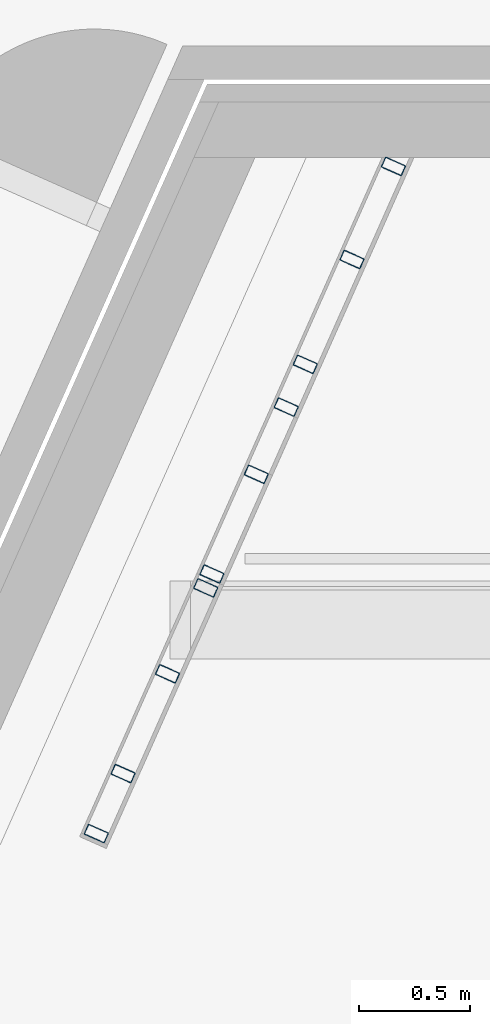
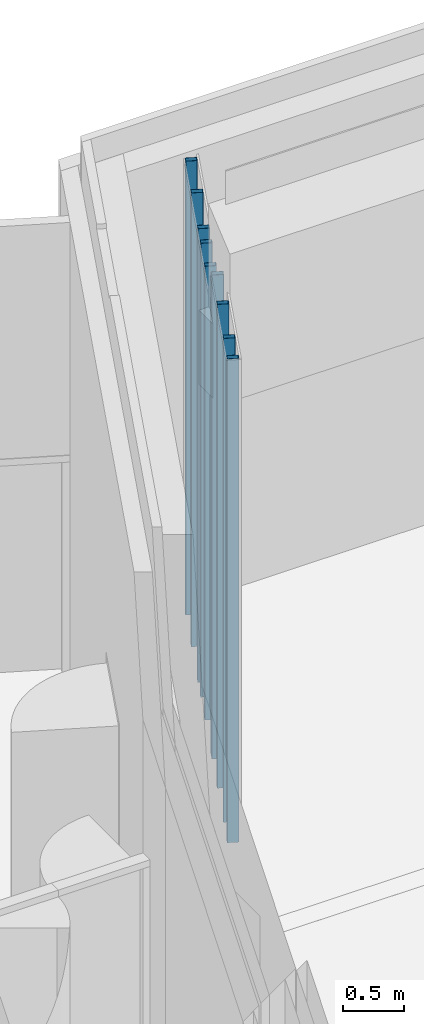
# One storey, part 2 of 19: 10 columns.
"""IFC2X3 building model written with IfcOpenShell, lengths in millimetres."""

from ifc_helpers import new_model, entity, si_unit, converted_unit, derived_unit, direction, frame, frame_2d, origin, place, context, subcontext, project, spatial, polyline, circle_curve, parameter, trimmed, segment, composite_curve, outline, extrude, source, transform, mapped, material, type_object, type_shapes, element, save


model = new_model("IFC2X3")

# Units and contexts
model_context = context("Model", 3, precision=0.01, world=origin(), true_north=direction((6.123031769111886e-17, 1.0)))
body_context = subcontext(model_context, "Body", "Model", "MODEL_VIEW")
ifc_project = project(units=[si_unit("LENGTHUNIT", "METRE", prefix="MILLI"), si_unit("AREAUNIT", "SQUARE_METRE"), si_unit("VOLUMEUNIT", "CUBIC_METRE"), converted_unit("PLANEANGLEUNIT", "DEGREE", entity("IfcRatioMeasure", 0.017453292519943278), si_unit("PLANEANGLEUNIT", "RADIAN"), dimensions=[0, 0, 0, 0, 0, 0, 0]), si_unit("MASSUNIT", "GRAM", prefix="KILO"), derived_unit("MASSDENSITYUNIT", [(si_unit("MASSUNIT", "GRAM", prefix="KILO"), 1), (si_unit("LENGTHUNIT", "METRE"), -3)]), derived_unit("MOMENTOFINERTIAUNIT", [(si_unit("LENGTHUNIT", "METRE"), 4)]), si_unit("TIMEUNIT", "SECOND"), si_unit("FREQUENCYUNIT", "HERTZ"), si_unit("THERMODYNAMICTEMPERATUREUNIT", "DEGREE_CELSIUS"), derived_unit("THERMALTRANSMITTANCEUNIT", [(si_unit("MASSUNIT", "GRAM", prefix="KILO"), 1), (si_unit("THERMODYNAMICTEMPERATUREUNIT", "KELVIN"), -1), (si_unit("TIMEUNIT", "SECOND"), -3)]), derived_unit("VOLUMETRICFLOWRATEUNIT", [(si_unit("LENGTHUNIT", "METRE"), 3), (si_unit("TIMEUNIT", "SECOND"), -1)]), derived_unit("MASSFLOWRATEUNIT", [(si_unit("MASSUNIT", "GRAM", prefix="KILO"), 1), (si_unit("TIMEUNIT", "SECOND"), -1)]), derived_unit("ROTATIONALFREQUENCYUNIT", [(si_unit("TIMEUNIT", "SECOND"), -1)]), si_unit("ELECTRICCURRENTUNIT", "AMPERE"), si_unit("ELECTRICVOLTAGEUNIT", "VOLT"), si_unit("POWERUNIT", "WATT"), si_unit("FORCEUNIT", "NEWTON", prefix="KILO"), si_unit("ILLUMINANCEUNIT", "LUX"), si_unit("LUMINOUSFLUXUNIT", "LUMEN"), si_unit("LUMINOUSINTENSITYUNIT", "CANDELA"), derived_unit("USERDEFINED", [(si_unit("MASSUNIT", "GRAM", prefix="KILO"), -1), (si_unit("LENGTHUNIT", "METRE"), -2), (si_unit("TIMEUNIT", "SECOND"), 3), (si_unit("LUMINOUSFLUXUNIT", "LUMEN"), 1)]), derived_unit("SOUNDPOWERUNIT", [(si_unit("MASSUNIT", "GRAM", prefix="KILO"), 1), (si_unit("LENGTHUNIT", "METRE"), 2), (si_unit("TIMEUNIT", "SECOND"), -3)]), derived_unit("SOUNDPRESSUREUNIT", [(si_unit("MASSUNIT", "GRAM", prefix="KILO"), 1), (si_unit("LENGTHUNIT", "METRE"), -1), (si_unit("TIMEUNIT", "SECOND"), -2)]), derived_unit("LINEARVELOCITYUNIT", [(si_unit("LENGTHUNIT", "METRE"), 1), (si_unit("TIMEUNIT", "SECOND"), -1)]), si_unit("PRESSUREUNIT", "PASCAL"), derived_unit("USERDEFINED", [(si_unit("LENGTHUNIT", "METRE"), -2), (si_unit("MASSUNIT", "GRAM", prefix="KILO"), 1), (si_unit("TIMEUNIT", "SECOND"), -2)]), derived_unit("LINEARFORCEUNIT", [(si_unit("MASSUNIT", "GRAM", prefix="KILO"), 1), (si_unit("LENGTHUNIT", "METRE"), 1), (si_unit("TIMEUNIT", "SECOND"), -2), (si_unit("LENGTHUNIT", "METRE"), -1)]), derived_unit("PLANARFORCEUNIT", [(si_unit("MASSUNIT", "GRAM", prefix="KILO"), 1), (si_unit("LENGTHUNIT", "METRE"), 1), (si_unit("TIMEUNIT", "SECOND"), -2), (si_unit("LENGTHUNIT", "METRE"), -2)])], contexts=[model_context])

# Site, building, storey
site_placement = place(None, frame((-10000.0, -10000.0, 0.0)))
site = spatial("IfcSite", under=ifc_project, at=site_placement, Name="Default", CompositionType="ELEMENT")
building_placement = place(site_placement, origin())
building = spatial("IfcBuilding", under=site, at=building_placement, CompositionType="ELEMENT")
storey_placement = place(building_placement, frame((0.0, 0.0, 4200.0)))
storey = spatial("IfcBuildingStorey", under=building, at=storey_placement, Name="01 1e verdieping", CompositionType="ELEMENT", Elevation=4200.000000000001)

# Columns
ifc_material = material(Name="Metal - Steel - 345 MPa")
column_type_1 = type_object("IfcColumnType", Name="Kokerprofielen_ITX(c):K100/50/2.5", PredefinedType="COLUMN", material=ifc_material)
shared_shape_1 = source(origin(), body_context, "Body", "SweptSolid", [
    extrude(outline(composite_curve([segment(polyline([(-20.0, -50.0), (20.0, -50.0)]), True, "CONTINUOUS"), segment(trimmed(circle_curve(frame_2d((20.0, -45.0), x_axis=(-1.0, 0.0)), 4.99999999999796), [parameter(90.00000000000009)], [parameter(180.00000000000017)], True, "PARAMETER"), True, "CONTINUOUS"), segment(polyline([(25.0, -45.0), (25.0, 45.0)]), True, "CONTINUOUS"), segment(trimmed(circle_curve(frame_2d((20.0, 45.0), x_axis=(-1.0, 0.0)), 4.999999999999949), [parameter(180.00000000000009)], [parameter(269.99999999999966)], True, "PARAMETER"), True, "CONTINUOUS"), segment(polyline([(20.0, 50.0), (-20.0, 50.0)]), True, "CONTINUOUS"), segment(trimmed(circle_curve(frame_2d((-20.0, 45.0), x_axis=(-1.0, 0.0)), 5.000000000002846), [parameter(269.99999999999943)], [parameter(359.9999999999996)], True, "PARAMETER"), True, "CONTINUOUS"), segment(polyline([(-25.0, 45.0), (-25.0, -45.0)]), True, "CONTINUOUS"), segment(trimmed(circle_curve(frame_2d((-20.0, -45.0), x_axis=(-1.0, 0.0)), 4.999999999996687), [parameter(359.9999999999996)], [parameter(89.99999999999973)], True, "PARAMETER"), True, "CONTINUOUS")], self_intersect=False), holes=[composite_curve([segment(trimmed(circle_curve(frame_2d((-20.0, -45.0), x_axis=(-1.0, 0.0)), 2.49999999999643), [parameter(0.0)], [parameter(89.99999999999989)], True, "PARAMETER"), False, "CONTINUOUS"), segment(polyline([(-22.499999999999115, -45.0), (-22.499999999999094, 45.0)]), True, "CONTINUOUS"), segment(trimmed(circle_curve(frame_2d((-20.0, 45.0), x_axis=(-1.0, 0.0)), 2.4999999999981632), [parameter(269.9999999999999)], [parameter(0.0)], True, "PARAMETER"), False, "CONTINUOUS"), segment(polyline([(-20.0, 47.500000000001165), (20.0, 47.500000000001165)]), True, "CONTINUOUS"), segment(trimmed(circle_curve(frame_2d((20.0, 45.0), x_axis=(-1.0, 0.0)), 2.5000000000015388), [parameter(180.0000000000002)], [parameter(270.0)], True, "PARAMETER"), False, "CONTINUOUS"), segment(polyline([(22.500000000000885, 45.0), (22.500000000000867, -45.0)]), True, "CONTINUOUS"), segment(trimmed(circle_curve(frame_2d((20.0, -45.0), x_axis=(-1.0, 0.0)), 2.500000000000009), [parameter(90.0000000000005)], [parameter(179.99999999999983)], True, "PARAMETER"), False, "CONTINUOUS"), segment(polyline([(20.0, -47.499999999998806), (-20.0, -47.49999999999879)]), True, "CONTINUOUS")], self_intersect=False)]), frame((0.0, 0.0, 4150.0), z_axis=(0.0, 0.0, 1.0), x_axis=(-1.0, 0.0, 0.0)), (0.0, 0.0, 1.0), 4549.999999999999),
])
type_shapes(column_type_1, [shared_shape_1])
for number, where, z_axis, x_axis in (
    (1, (28523.670080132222, 48224.522803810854, -4200.0), (0.0, 0.0, 1.0), (0.4067926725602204, 0.9135205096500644, 0.0)),
    (2, (28438.24361889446, 48032.68349678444, -4200.0), (0.0, 0.0, 1.0), (0.4067926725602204, 0.9135205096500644, 0.0)),
    (3, (28733.168306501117, 48694.985866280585, -4200.0), (0.0, 0.0, 1.0), (0.4067926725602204, 0.9135205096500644, 0.0)),
    (4, (28919.10999593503, 49112.5488126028, -4200.0), (0.0, 0.0, 1.0), (0.4067926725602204, 0.9135205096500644, 0.0)),
    (5, (28304.01679907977, 47731.21515499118, -4200.0), (0.0, 0.0, 1.0), (0.4067926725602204, 0.9135205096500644, 0.0)),
    (6, (28104.688389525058, 47283.59010526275, -4200.0), (0.0, 0.0, 1.0), (0.4067926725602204, 0.9135205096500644, 0.0)),
):
    element("IfcColumn", number, at=place(storey_placement, frame(where, z_axis=z_axis, x_axis=x_axis)), inside=storey, type_object=column_type_1, material=ifc_material, Name="Kokerprofielen_ITX(c):K100/50/2.5", ObjectType="Kokerprofielen_ITX(c):K100/50/2.5", context=body_context, shape_type="MappedRepresentation", body=[
        mapped(shared_shape_1, transform((0.0, 0.0, 0.0), scale=1.0)),
    ])
column_type_2 = type_object("IfcColumnType", Name="Kokerprofielen_ITX(c):K100/50/2.5", PredefinedType="COLUMN", material=ifc_material)
shared_shape_2 = source(origin(), body_context, "Body", "SweptSolid", [
    extrude(outline(composite_curve([segment(polyline([(-20.0, -50.0), (20.0, -50.0)]), True, "CONTINUOUS"), segment(trimmed(circle_curve(frame_2d((20.0, -45.0), x_axis=(-1.0, 0.0)), 4.99999999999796), [parameter(90.00000000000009)], [parameter(180.00000000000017)], True, "PARAMETER"), True, "CONTINUOUS"), segment(polyline([(25.0, -45.0), (25.0, 45.0)]), True, "CONTINUOUS"), segment(trimmed(circle_curve(frame_2d((20.0, 45.0), x_axis=(-1.0, 0.0)), 4.999999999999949), [parameter(180.00000000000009)], [parameter(269.99999999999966)], True, "PARAMETER"), True, "CONTINUOUS"), segment(polyline([(20.0, 50.0), (-20.0, 50.0)]), True, "CONTINUOUS"), segment(trimmed(circle_curve(frame_2d((-20.0, 45.0), x_axis=(-1.0, 0.0)), 5.000000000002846), [parameter(269.99999999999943)], [parameter(359.9999999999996)], True, "PARAMETER"), True, "CONTINUOUS"), segment(polyline([(-25.0, 45.0), (-25.0, -45.0)]), True, "CONTINUOUS"), segment(trimmed(circle_curve(frame_2d((-20.0, -45.0), x_axis=(-1.0, 0.0)), 4.999999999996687), [parameter(359.9999999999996)], [parameter(89.99999999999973)], True, "PARAMETER"), True, "CONTINUOUS")], self_intersect=False), holes=[composite_curve([segment(trimmed(circle_curve(frame_2d((-20.0, -45.0), x_axis=(-1.0, 0.0)), 2.49999999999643), [parameter(0.0)], [parameter(89.99999999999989)], True, "PARAMETER"), False, "CONTINUOUS"), segment(polyline([(-22.499999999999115, -45.0), (-22.499999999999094, 45.0)]), True, "CONTINUOUS"), segment(trimmed(circle_curve(frame_2d((-20.0, 45.0), x_axis=(-1.0, 0.0)), 2.4999999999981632), [parameter(269.9999999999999)], [parameter(0.0)], True, "PARAMETER"), False, "CONTINUOUS"), segment(polyline([(-20.0, 47.500000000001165), (20.0, 47.500000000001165)]), True, "CONTINUOUS"), segment(trimmed(circle_curve(frame_2d((20.0, 45.0), x_axis=(-1.0, 0.0)), 2.5000000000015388), [parameter(180.0000000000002)], [parameter(270.0)], True, "PARAMETER"), False, "CONTINUOUS"), segment(polyline([(22.500000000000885, 45.0), (22.500000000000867, -45.0)]), True, "CONTINUOUS"), segment(trimmed(circle_curve(frame_2d((20.0, -45.0), x_axis=(-1.0, 0.0)), 2.500000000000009), [parameter(90.0000000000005)], [parameter(179.99999999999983)], True, "PARAMETER"), False, "CONTINUOUS"), segment(polyline([(20.0, -47.499999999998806), (-20.0, -47.49999999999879)]), True, "CONTINUOUS")], self_intersect=False)]), frame((0.0, 0.0, 4150.0), z_axis=(0.0, 0.0, 1.0), x_axis=(-1.0, 0.0, 0.0)), (0.0, 0.0, 1.0), 4850.0),
])
type_shapes(column_type_2, [shared_shape_2])
column_1_placement = place(storey_placement, frame((27905.359979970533, 46835.965055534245, -4200.0), z_axis=(0.0, 0.0, 1.0), x_axis=(0.4067926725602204, 0.9135205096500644, 0.0)))
element("IfcColumn", 7, at=column_1_placement, inside=storey, type_object=column_type_2, material=ifc_material, Name="Kokerprofielen_ITX(c):K100/50/2.5", ObjectType="Kokerprofielen_ITX(c):K100/50/2.5", context=body_context, shape_type="MappedRepresentation", body=[
    mapped(shared_shape_2, transform((0.0, 0.0, 0.0), scale=1.0)),
])
column_type_3 = type_object("IfcColumnType", Name="Kokerprofielen_ITX(c):K100/50/2.5", PredefinedType="COLUMN", material=ifc_material)
shared_shape_3 = source(origin(), body_context, "Body", "SweptSolid", [
    extrude(outline(composite_curve([segment(polyline([(-20.0, -50.0), (20.0, -50.0)]), True, "CONTINUOUS"), segment(trimmed(circle_curve(frame_2d((20.0, -45.0), x_axis=(-1.0, 0.0)), 4.99999999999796), [parameter(90.00000000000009)], [parameter(180.00000000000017)], True, "PARAMETER"), True, "CONTINUOUS"), segment(polyline([(25.0, -45.0), (25.0, 45.0)]), True, "CONTINUOUS"), segment(trimmed(circle_curve(frame_2d((20.0, 45.0), x_axis=(-1.0, 0.0)), 4.999999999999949), [parameter(180.00000000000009)], [parameter(269.99999999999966)], True, "PARAMETER"), True, "CONTINUOUS"), segment(polyline([(20.0, 50.0), (-20.0, 50.0)]), True, "CONTINUOUS"), segment(trimmed(circle_curve(frame_2d((-20.0, 45.0), x_axis=(-1.0, 0.0)), 5.000000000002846), [parameter(269.99999999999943)], [parameter(359.9999999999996)], True, "PARAMETER"), True, "CONTINUOUS"), segment(polyline([(-25.0, 45.0), (-25.0, -45.0)]), True, "CONTINUOUS"), segment(trimmed(circle_curve(frame_2d((-20.0, -45.0), x_axis=(-1.0, 0.0)), 4.999999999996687), [parameter(359.9999999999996)], [parameter(89.99999999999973)], True, "PARAMETER"), True, "CONTINUOUS")], self_intersect=False), holes=[composite_curve([segment(trimmed(circle_curve(frame_2d((-20.0, -45.0), x_axis=(-1.0, 0.0)), 2.49999999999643), [parameter(0.0)], [parameter(89.99999999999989)], True, "PARAMETER"), False, "CONTINUOUS"), segment(polyline([(-22.499999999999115, -45.0), (-22.499999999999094, 45.0)]), True, "CONTINUOUS"), segment(trimmed(circle_curve(frame_2d((-20.0, 45.0), x_axis=(-1.0, 0.0)), 2.4999999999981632), [parameter(269.9999999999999)], [parameter(0.0)], True, "PARAMETER"), False, "CONTINUOUS"), segment(polyline([(-20.0, 47.500000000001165), (20.0, 47.500000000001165)]), True, "CONTINUOUS"), segment(trimmed(circle_curve(frame_2d((20.0, 45.0), x_axis=(-1.0, 0.0)), 2.5000000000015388), [parameter(180.0000000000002)], [parameter(270.0)], True, "PARAMETER"), False, "CONTINUOUS"), segment(polyline([(22.500000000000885, 45.0), (22.500000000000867, -45.0)]), True, "CONTINUOUS"), segment(trimmed(circle_curve(frame_2d((20.0, -45.0), x_axis=(-1.0, 0.0)), 2.500000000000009), [parameter(90.0000000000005)], [parameter(179.99999999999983)], True, "PARAMETER"), False, "CONTINUOUS"), segment(polyline([(20.0, -47.499999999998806), (-20.0, -47.49999999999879)]), True, "CONTINUOUS")], self_intersect=False)]), frame((0.0, 0.0, 4150.0), z_axis=(0.0, 0.0, 1.0), x_axis=(-1.0, 0.0, 0.0)), (0.0, 0.0, 1.0), 4850.0),
])
type_shapes(column_type_3, [shared_shape_3])
column_2_placement = place(storey_placement, frame((27706.031570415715, 46388.34000580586, -4200.0), z_axis=(0.0, 0.0, 1.0), x_axis=(0.4067926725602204, 0.9135205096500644, 0.0)))
element("IfcColumn", 8, at=column_2_placement, inside=storey, type_object=column_type_3, material=ifc_material, Name="Kokerprofielen_ITX(c):K100/50/2.5", ObjectType="Kokerprofielen_ITX(c):K100/50/2.5", context=body_context, shape_type="MappedRepresentation", body=[
    mapped(shared_shape_3, transform((0.0, 0.0, 0.0), scale=1.0)),
])
column_type_4 = type_object("IfcColumnType", Name="Kokerprofielen_ITX(c):K100/50/2.5", PredefinedType="COLUMN", material=ifc_material)
shared_shape_4 = source(origin(), body_context, "Body", "SweptSolid", [
    extrude(outline(composite_curve([segment(polyline([(-20.0, -50.0), (20.0, -50.0)]), True, "CONTINUOUS"), segment(trimmed(circle_curve(frame_2d((20.0, -45.0), x_axis=(-1.0, 0.0)), 4.99999999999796), [parameter(90.00000000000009)], [parameter(180.00000000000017)], True, "PARAMETER"), True, "CONTINUOUS"), segment(polyline([(25.0, -45.0), (25.0, 45.0)]), True, "CONTINUOUS"), segment(trimmed(circle_curve(frame_2d((20.0, 45.0), x_axis=(-1.0, 0.0)), 4.999999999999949), [parameter(180.00000000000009)], [parameter(269.99999999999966)], True, "PARAMETER"), True, "CONTINUOUS"), segment(polyline([(20.0, 50.0), (-20.0, 50.0)]), True, "CONTINUOUS"), segment(trimmed(circle_curve(frame_2d((-20.0, 45.0), x_axis=(-1.0, 0.0)), 5.000000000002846), [parameter(269.99999999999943)], [parameter(359.9999999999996)], True, "PARAMETER"), True, "CONTINUOUS"), segment(polyline([(-25.0, 45.0), (-25.0, -45.0)]), True, "CONTINUOUS"), segment(trimmed(circle_curve(frame_2d((-20.0, -45.0), x_axis=(-1.0, 0.0)), 4.999999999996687), [parameter(359.9999999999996)], [parameter(89.99999999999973)], True, "PARAMETER"), True, "CONTINUOUS")], self_intersect=False), holes=[composite_curve([segment(trimmed(circle_curve(frame_2d((-20.0, -45.0), x_axis=(-1.0, 0.0)), 2.49999999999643), [parameter(0.0)], [parameter(89.99999999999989)], True, "PARAMETER"), False, "CONTINUOUS"), segment(polyline([(-22.499999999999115, -45.0), (-22.499999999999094, 45.0)]), True, "CONTINUOUS"), segment(trimmed(circle_curve(frame_2d((-20.0, 45.0), x_axis=(-1.0, 0.0)), 2.4999999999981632), [parameter(269.9999999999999)], [parameter(0.0)], True, "PARAMETER"), False, "CONTINUOUS"), segment(polyline([(-20.0, 47.500000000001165), (20.0, 47.500000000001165)]), True, "CONTINUOUS"), segment(trimmed(circle_curve(frame_2d((20.0, 45.0), x_axis=(-1.0, 0.0)), 2.5000000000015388), [parameter(180.0000000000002)], [parameter(270.0)], True, "PARAMETER"), False, "CONTINUOUS"), segment(polyline([(22.500000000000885, 45.0), (22.500000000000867, -45.0)]), True, "CONTINUOUS"), segment(trimmed(circle_curve(frame_2d((20.0, -45.0), x_axis=(-1.0, 0.0)), 2.500000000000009), [parameter(90.0000000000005)], [parameter(179.99999999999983)], True, "PARAMETER"), False, "CONTINUOUS"), segment(polyline([(20.0, -47.499999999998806), (-20.0, -47.49999999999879)]), True, "CONTINUOUS")], self_intersect=False)]), frame((0.0, 0.0, 4150.0), z_axis=(0.0, 0.0, 1.0), x_axis=(-1.0, 0.0, 0.0)), (0.0, 0.0, 1.0), 4850.0),
])
type_shapes(column_type_4, [shared_shape_4])
column_3_placement = place(storey_placement, frame((27586.06862316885, 46118.943283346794, -4200.0), z_axis=(0.0, 0.0, 1.0), x_axis=(0.4067926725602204, 0.9135205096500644, 0.0)))
element("IfcColumn", 9, at=column_3_placement, inside=storey, type_object=column_type_4, material=ifc_material, Name="Kokerprofielen_ITX(c):K100/50/2.5", ObjectType="Kokerprofielen_ITX(c):K100/50/2.5", context=body_context, shape_type="MappedRepresentation", body=[
    mapped(shared_shape_4, transform((0.0, 0.0, 0.0), scale=1.0)),
])
column_type_5 = type_object("IfcColumnType", Name="Kokerprofielen_ITX(c):K100/50/2.5", PredefinedType="COLUMN", material=ifc_material)
shared_shape_5 = source(origin(), body_context, "Body", "SweptSolid", [
    extrude(outline(composite_curve([segment(polyline([(-20.0, -50.0), (20.0, -50.0)]), True, "CONTINUOUS"), segment(trimmed(circle_curve(frame_2d((20.0, -45.0), x_axis=(-1.0, 0.0)), 4.99999999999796), [parameter(90.00000000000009)], [parameter(180.00000000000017)], True, "PARAMETER"), True, "CONTINUOUS"), segment(polyline([(25.0, -45.0), (25.0, 45.0)]), True, "CONTINUOUS"), segment(trimmed(circle_curve(frame_2d((20.0, 45.0), x_axis=(-1.0, 0.0)), 4.999999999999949), [parameter(180.00000000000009)], [parameter(269.99999999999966)], True, "PARAMETER"), True, "CONTINUOUS"), segment(polyline([(20.0, 50.0), (-20.0, 50.0)]), True, "CONTINUOUS"), segment(trimmed(circle_curve(frame_2d((-20.0, 45.0), x_axis=(-1.0, 0.0)), 5.000000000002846), [parameter(269.99999999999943)], [parameter(359.9999999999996)], True, "PARAMETER"), True, "CONTINUOUS"), segment(polyline([(-25.0, 45.0), (-25.0, -45.0)]), True, "CONTINUOUS"), segment(trimmed(circle_curve(frame_2d((-20.0, -45.0), x_axis=(-1.0, 0.0)), 4.999999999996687), [parameter(359.9999999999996)], [parameter(89.99999999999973)], True, "PARAMETER"), True, "CONTINUOUS")], self_intersect=False), holes=[composite_curve([segment(trimmed(circle_curve(frame_2d((-20.0, -45.0), x_axis=(-1.0, 0.0)), 2.49999999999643), [parameter(0.0)], [parameter(89.99999999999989)], True, "PARAMETER"), False, "CONTINUOUS"), segment(polyline([(-22.499999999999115, -45.0), (-22.499999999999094, 45.0)]), True, "CONTINUOUS"), segment(trimmed(circle_curve(frame_2d((-20.0, 45.0), x_axis=(-1.0, 0.0)), 2.4999999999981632), [parameter(269.9999999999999)], [parameter(0.0)], True, "PARAMETER"), False, "CONTINUOUS"), segment(polyline([(-20.0, 47.500000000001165), (20.0, 47.500000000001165)]), True, "CONTINUOUS"), segment(trimmed(circle_curve(frame_2d((20.0, 45.0), x_axis=(-1.0, 0.0)), 2.5000000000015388), [parameter(180.0000000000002)], [parameter(270.0)], True, "PARAMETER"), False, "CONTINUOUS"), segment(polyline([(22.500000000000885, 45.0), (22.500000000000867, -45.0)]), True, "CONTINUOUS"), segment(trimmed(circle_curve(frame_2d((20.0, -45.0), x_axis=(-1.0, 0.0)), 2.500000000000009), [parameter(90.0000000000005)], [parameter(179.99999999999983)], True, "PARAMETER"), False, "CONTINUOUS"), segment(polyline([(20.0, -47.499999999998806), (-20.0, -47.49999999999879)]), True, "CONTINUOUS")], self_intersect=False)]), frame((0.0, 0.0, 4150.0), z_axis=(0.0, 0.0, 1.0), x_axis=(-1.0, 0.0, 0.0)), (0.0, 0.0, 1.0), 4850.0),
])
type_shapes(column_type_5, [shared_shape_5])
column_4_placement = place(storey_placement, frame((28077.02648779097, 47221.470710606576, -4200.0), z_axis=(0.0, 0.0, 1.0), x_axis=(0.4067926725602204, 0.9135205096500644, 0.0)))
element("IfcColumn", 10, at=column_4_placement, inside=storey, type_object=column_type_5, material=ifc_material, Name="Kokerprofielen_ITX(c):K100/50/2.5", ObjectType="Kokerprofielen_ITX(c):K100/50/2.5", context=body_context, shape_type="MappedRepresentation", body=[
    mapped(shared_shape_5, transform((0.0, 0.0, 0.0), scale=1.0)),
])

save(model, "model.ifc")
